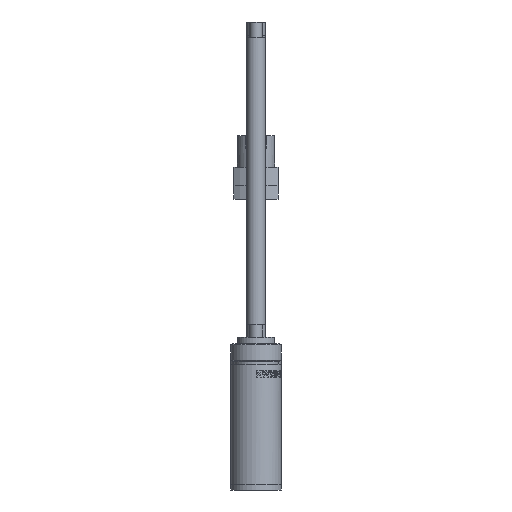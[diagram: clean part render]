
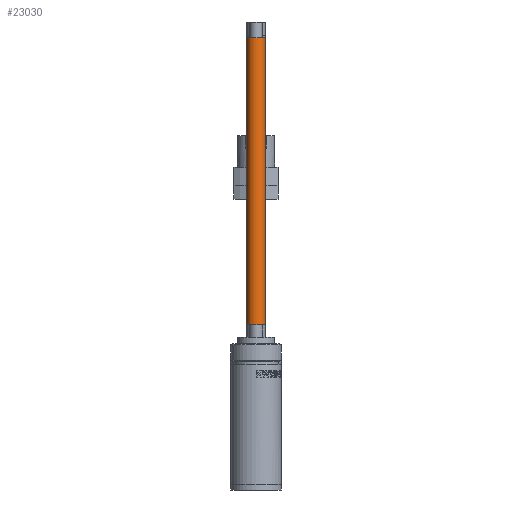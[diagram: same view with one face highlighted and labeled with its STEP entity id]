
A CAD part, left-side view. The second image highlights one B-rep face of the part: STEP entity #23030.
In plain terms, the highlighted cylindrical face has radius 1.5 mm (diameter 3 mm), a full revolution.
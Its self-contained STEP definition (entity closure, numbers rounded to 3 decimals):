
#23030=ADVANCED_FACE('',(#24875,#24876),#23528,.T.);
#23528=CYLINDRICAL_SURFACE('',#55751,1.5);
#24875=FACE_BOUND('',#28149,.T.);
#24876=FACE_BOUND('',#28150,.T.);
#28149=EDGE_LOOP('',(#39589));
#28150=EDGE_LOOP('',(#39590));
#39589=ORIENTED_EDGE('',*,*,#49327,.F.);
#39590=ORIENTED_EDGE('',*,*,#49326,.T.);
#43606=VERTEX_POINT('',#114281);
#43607=VERTEX_POINT('',#114284);
#49326=EDGE_CURVE('',#43606,#43606,#50675,.T.);
#49327=EDGE_CURVE('',#43607,#43607,#50676,.T.);
#50675=CIRCLE('',#55748,1.5);
#50676=CIRCLE('',#55750,1.5);
#55748=AXIS2_PLACEMENT_3D('',#114280,#63553,#63554);
#55750=AXIS2_PLACEMENT_3D('',#114283,#63557,#63558);
#55751=AXIS2_PLACEMENT_3D('',#114285,#63559,#63560);
#63553=DIRECTION('',(0.,0.,-1.));
#63554=DIRECTION('',(-1.,0.,0.));
#63557=DIRECTION('',(0.,0.,-1.));
#63558=DIRECTION('',(-1.,0.,0.));
#63559=DIRECTION('',(0.,0.,-1.));
#63560=DIRECTION('',(-1.,0.,0.));
#114280=CARTESIAN_POINT('',(-108.,0.,71.7));
#114281=CARTESIAN_POINT('',(-109.5,0.,71.7));
#114283=CARTESIAN_POINT('',(-108.,0.,26.2));
#114284=CARTESIAN_POINT('',(-109.5,0.,26.2));
#114285=CARTESIAN_POINT('',(-108.,0.,23.2));
